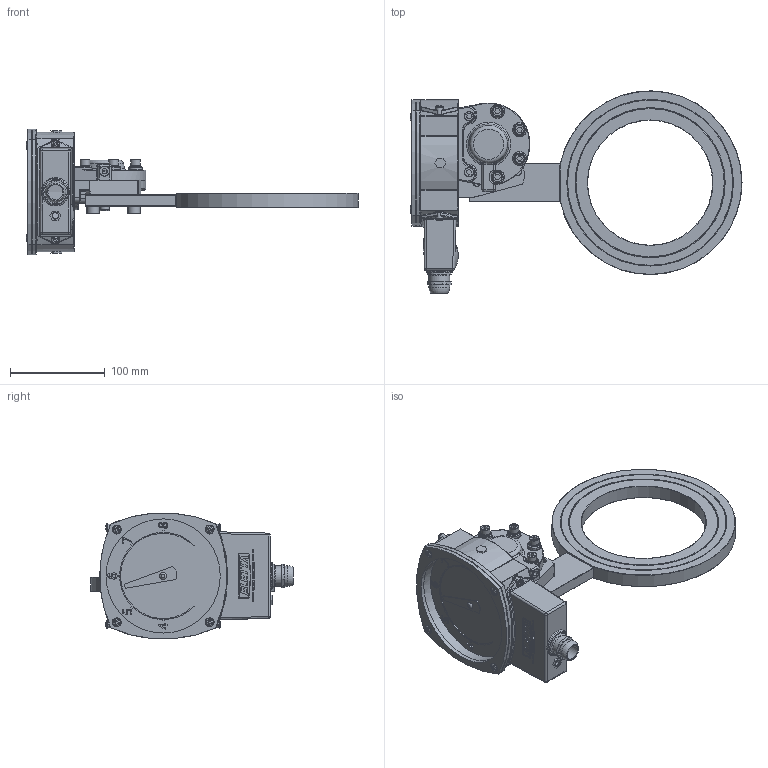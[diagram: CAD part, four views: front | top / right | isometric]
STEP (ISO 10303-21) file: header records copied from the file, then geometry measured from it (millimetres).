
FILE_DESCRIPTION(/* description */ ('Alibre Inc.'),/* implementation_level */ '2;1');
FILE_NAME(/* name */ 'export0',/* time_stamp */ '2012-10-19T13:43:27+02:00',/* author */ (''),/* organization */ (''),/* preprocessor_version */ 'ST-DEVELOPER v14',/* originating_system */ 'Alibre',/* authorisation */ '');
FILE_SCHEMA (('CONFIG_CONTROL_DESIGN'));
Length unit declared in the file: centimetre
Products named in the file (19): ID_1; ID_2; ID_3; ID_4; ID_5; ID_6; ID_7; ID_8; ID_9; ID_10; ID_11; ID_12; ID_13
Bounding box: 350.5 x 213.59 x 132.76 mm (x, y, z)
Volume: 704599.3 mm3; surface area: 267650.7 mm2
Topology: 31 solids, 31 shells, 1723 faces, 4150 edges, 2558 vertices
Faces by surface type: plane 766, bspline 365, cylinder 322, torus 158, cone 86, sphere 26
Full cylindrical faces by diameter (mm): 3.9 x2, 5 x18, 5.2 x2, 5.5 x5, 5.541 x2, 6 x28, 6.35 x2, 6.5 x7, 8 x7, 8.5 x2, 9.6 x6, 10 x11, 10.5 x1, 12 x3, 13 x2, 14 x3, 16 x1, 19.5 x1, 22 x2, 22.5 x4, 25 x1, 29 x1, 31 x1, 120.5 x3, 123.4 x1, 129 x1, 132 x1, 157 x2, 158 x2, 175 x2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
Entity records: 60753 total; most frequent: CARTESIAN_POINT 28748, ORIENTED_EDGE 6474, DIRECTION 4845, EDGE_CURVE 3237, VERTEX_POINT 2118, AXIS2_PLACEMENT_3D 2016, EDGE_LOOP 1787, FACE_BOUND 1787
